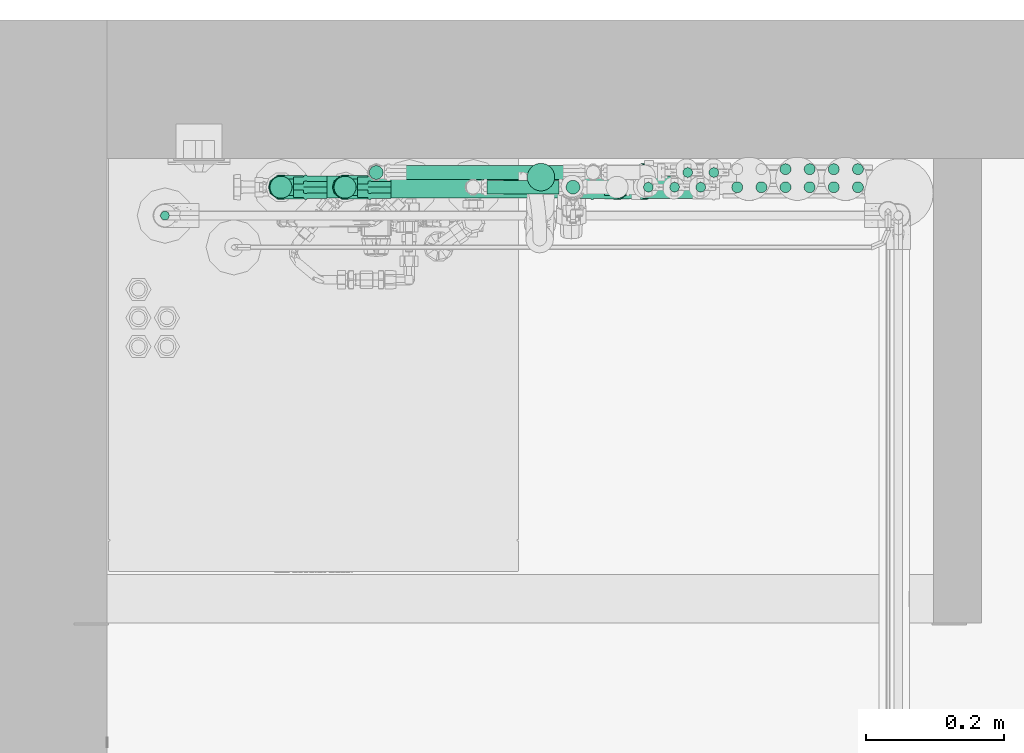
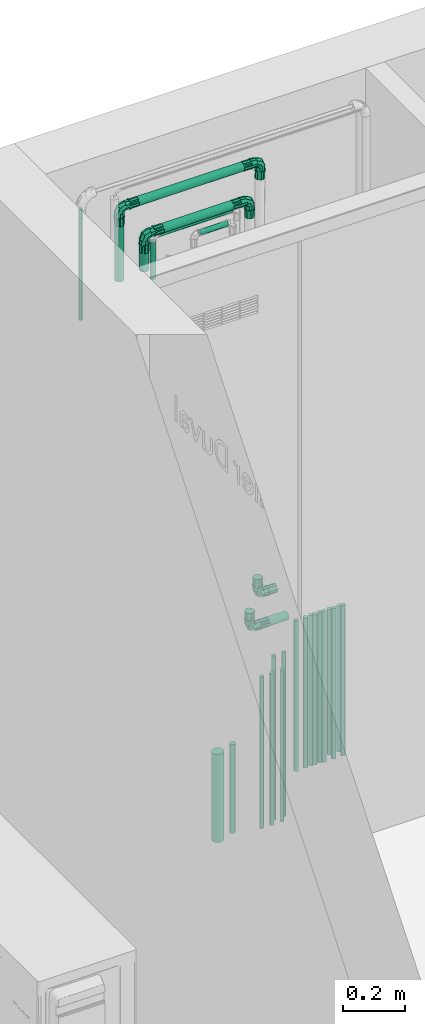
# One storey, part 19 of 32: 26 flow segments, 6 flow fittings.
"""IFC2X3 building model written with IfcOpenShell, lengths in metres."""

import ifcopenshell
import ifcopenshell.guid

model = None  # the IFC model being written
_history = None  # IfcOwnerHistory: only IFC2X3 demands one
_inside = {}  # id of a spatial element -> (the spatial element, [elements in it])
_under = {}  # id of a project, library or spatial element -> (it, [spatial elements below it])
_declared = {}  # id of a project -> (the project, [libraries it declares])
_typed = {}  # id of a type object -> (the type object, [elements of that type])
_made_of = {}  # id of a material, layer set ... -> (it, [elements and type objects made of it])


def new_model(schema):
    """Start an empty IFC model of exactly this schema.

    Asked for "IFC4X3", IfcOpenShell would pick the latest addendum, in which some entities
    have other attributes; the version numbers below select the first issue.
    IFC2X3 requires an IfcOwnerHistory on every rooted entity: one is made here for all.
    """
    global model, _history
    if schema == "IFC4X3":
        model = ifcopenshell.file(schema_version=(4, 3, 0, 0))
    else:
        model = ifcopenshell.file(schema=schema)
    _inside.clear()
    _under.clear()
    _declared.clear()
    _typed.clear()
    _made_of.clear()
    _history = None
    if model.schema == "IFC2X3":
        org = make("IfcOrganization", Name="unknown")
        user = make(
            "IfcPersonAndOrganization",
            ThePerson=make("IfcPerson", FamilyName="unknown"),
            TheOrganization=org,
        )
        app = make(
            "IfcApplication",
            ApplicationDeveloper=org,
            Version="unknown",
            ApplicationFullName="unknown",
            ApplicationIdentifier="unknown",
        )
        _history = make(
            "IfcOwnerHistory",
            OwningUser=user,
            OwningApplication=app,
            ChangeAction="ADDED",
            CreationDate=0,
        )
    return model


def make(cls, **values):
    """One entity of the class cls with the attributes given. An attribute that is None is left unset."""
    return model.create_entity(
        cls, **{name: value for name, value in values.items() if value is not None}
    )


def entity(cls, *values):
    """Any entity or typed value of the class cls, its attributes in the order of the schema. None: left unset."""
    e = model.create_entity(cls)
    for i, value in enumerate(values):
        if value is not None:
            e[i] = value
    return e


def rooted(cls, **values):
    """An entity with a GlobalId (a new one), such as an element, a storey or a relation."""
    return make(cls, GlobalId=ifcopenshell.guid.new(), OwnerHistory=_history, **values)


def si_unit(unit_type, name, prefix=None):
    """IfcSIUnit, for example si_unit("LENGTHUNIT", "METRE", prefix="MILLI")."""
    return make("IfcSIUnit", UnitType=unit_type, Prefix=prefix, Name=name)


def converted_unit(unit_type, name, factor, base, dimensions=None, offset=None):
    """IfcConversionBasedUnit, such as the inch: factor (a typed value) times the base unit."""
    return make(
        "IfcConversionBasedUnit"
        if offset is None
        else "IfcConversionBasedUnitWithOffset",
        ConversionOffset=offset,
        Dimensions=None
        if dimensions is None
        else entity("IfcDimensionalExponents", *dimensions),
        UnitType=unit_type,
        Name=name,
        ConversionFactor=make(
            "IfcMeasureWithUnit", ValueComponent=factor, UnitComponent=base
        ),
    )


def derived_unit(unit_type, elements):
    """IfcDerivedUnit: a product of units, each with its exponent."""
    return make(
        "IfcDerivedUnit",
        Elements=[
            make("IfcDerivedUnitElement", Unit=unit, Exponent=power)
            for unit, power in elements
        ],
        UnitType=unit_type,
    )


def assignment(units):
    """IfcUnitAssignment: the units of a project."""
    return None if units is None else make("IfcUnitAssignment", Units=units)


def point(xyz):
    """IfcCartesianPoint."""
    return None if xyz is None else make("IfcCartesianPoint", Coordinates=xyz)


def direction(xyz):
    """IfcDirection."""
    return None if xyz is None else make("IfcDirection", DirectionRatios=xyz)


def frame(location, z_axis=None, x_axis=None):
    """IfcAxis2Placement3D, a coordinate frame: its origin and axes. An axis left out is left unset."""
    return make(
        "IfcAxis2Placement3D",
        Location=point(location),
        Axis=direction(z_axis),
        RefDirection=direction(x_axis),
    )


def frame_2d(location, x_axis=None):
    """IfcAxis2Placement2D, a coordinate frame in the plane: its origin and x axis."""
    return make(
        "IfcAxis2Placement2D", Location=point(location), RefDirection=direction(x_axis)
    )


def origin():
    """The frame at (0, 0, 0) with its axes left unset."""
    return frame((0.0, 0.0, 0.0))


def origin_2d_with_axis():
    """The frame at (0, 0) in the plane with the x axis (1, 0) written out."""
    return frame_2d((0.0, 0.0), x_axis=(1.0, 0.0))


def place(relative_to, where):
    """IfcLocalPlacement: puts the frame where relative to a parent placement (None: the world)."""
    return make(
        "IfcLocalPlacement", PlacementRelTo=relative_to, RelativePlacement=where
    )


def context(
    kind, dimensions, precision=None, world=None, true_north=None, identifier=None
):
    """IfcGeometricRepresentationContext, for example the 3D "Model" context."""
    return make(
        "IfcGeometricRepresentationContext",
        ContextIdentifier=identifier,
        ContextType=kind,
        CoordinateSpaceDimension=dimensions,
        Precision=precision,
        WorldCoordinateSystem=world,
        TrueNorth=true_north,
    )


def subcontext(parent, identifier, kind, view, scale=None):
    """IfcGeometricRepresentationSubContext, for example "Body" below "Model"."""
    return make(
        "IfcGeometricRepresentationSubContext",
        ContextIdentifier=identifier,
        ContextType=kind,
        ParentContext=parent,
        TargetScale=scale,
        TargetView=view,
    )


def project(units=None, contexts=None):
    """IfcProject with its units and contexts."""
    return rooted(
        "IfcProject",
        Name="project",
        RepresentationContexts=contexts,
        UnitsInContext=assignment(units),
    )


def spatial(cls, under=None, at=None, **own):
    """A site, building, storey or space (cls), placed at a placement, below another one or the project."""
    s = rooted(cls, ObjectPlacement=at, **own)
    if under is not None:
        _under.setdefault(under.id(), (under, []))[1].append(s)
    return s


def profile(cls, at=None, kind="AREA", **sizes):
    """A parametric profile (cls). Its sizes go by their IFC names, for example OverallWidth=200.0."""
    return make(cls, ProfileType=kind, Position=at, **sizes)


def circle(**sizes):
    """IfcCircleProfileDef."""
    return profile("IfcCircleProfileDef", **sizes)


def extrude(swept, where, along, depth):
    """IfcExtrudedAreaSolid: the profile swept, set in the frame where, extruded along a direction by depth."""
    return make(
        "IfcExtrudedAreaSolid",
        SweptArea=swept,
        Position=where,
        ExtrudedDirection=direction(along),
        Depth=depth,
    )


def faces_of(points, faces, orient=None, outer=None):
    """IfcFace entities. A face is a list of loops; a loop is a list of indices into points, from 0.

    orient and outer hold one flag for each loop. By default every Orientation is true, the
    first loop of a face is its IfcFaceOuterBound and the others are IfcFaceBound.
    """
    made = []
    for i, loops in enumerate(faces):
        bounds = []
        for j, loop in enumerate(loops):
            is_outer = j == 0 if outer is None else outer[i][j]
            bounds.append(
                make(
                    "IfcFaceOuterBound" if is_outer else "IfcFaceBound",
                    Bound=make("IfcPolyLoop", Polygon=[points[k] for k in loop]),
                    Orientation=True if orient is None else orient[i][j],
                )
            )
        made.append(make("IfcFace", Bounds=bounds))
    return made


def faceted_brep(points, faces, orient=None, outer=None, voids=None):
    """IfcFacetedBrep: a solid bounded by flat faces; with voids (closed shells), ...WithVoids."""
    shared = [point(p) for p in points]
    hull = make("IfcClosedShell", CfsFaces=faces_of(shared, faces, orient, outer))
    if voids is None:
        return make("IfcFacetedBrep", Outer=hull)
    return make(
        "IfcFacetedBrepWithVoids",
        Outer=hull,
        Voids=[
            make(cls, CfsFaces=faces_of(shared, fs, o, b)) for cls, fs, o, b in voids
        ],
    )


def shape(context_of_items, identifier, shape_type, items):
    """IfcShapeRepresentation: the items that make up one representation, for example the "Body"."""
    return make(
        "IfcShapeRepresentation",
        ContextOfItems=context_of_items,
        RepresentationIdentifier=identifier,
        RepresentationType=shape_type,
        Items=items,
    )


def source(mapping_origin, context_of_items, identifier, shape_type, items):
    """IfcRepresentationMap: a shape defined once, which mapped items show again and again."""
    return make(
        "IfcRepresentationMap",
        MappingOrigin=mapping_origin,
        MappedRepresentation=shape(context_of_items, identifier, shape_type, items),
    )


def transform(
    local_origin,
    x_axis=None,
    y_axis=None,
    z_axis=None,
    scale=None,
    scale2=None,
    scale3=None,
    uniform=True,
):
    """IfcCartesianTransformationOperator3D, or its non-uniform kind. x_axis, y_axis, z_axis: its Axis1, 2, 3."""
    if uniform:
        return make(
            "IfcCartesianTransformationOperator3D",
            Axis1=direction(x_axis),
            Axis2=direction(y_axis),
            LocalOrigin=point(local_origin),
            Scale=scale,
            Axis3=direction(z_axis),
        )
    return make(
        "IfcCartesianTransformationOperator3DnonUniform",
        Axis1=direction(x_axis),
        Axis2=direction(y_axis),
        LocalOrigin=point(local_origin),
        Scale=scale,
        Axis3=direction(z_axis),
        Scale2=scale2,
        Scale3=scale3,
    )


def mapped(mapping_source, mapping_target):
    """IfcMappedItem: shows the shape of a source again, moved by a transform."""
    return make(
        "IfcMappedItem", MappingSource=mapping_source, MappingTarget=mapping_target
    )


def material(Name=None, Category=None):
    """IfcMaterial."""
    return make("IfcMaterial", Name=Name, Category=Category)


def material_list(materials):
    """IfcMaterialList."""
    return make("IfcMaterialList", Materials=materials)


def made_of(thing, what):
    """Note that an element or type object is made of a material, layer set ...; save() writes the relation."""
    if what is not None:
        _made_of.setdefault(what.id(), (what, []))[1].append(thing)
    return thing


def type_object(cls, material=None, **own):
    """A type object (cls), such as IfcWallType, which elements share."""
    return made_of(rooted(cls, **own), material)


def type_shapes(of_type, sources):
    """Give a type object the sources (RepresentationMaps) that its elements show as mapped items."""
    of_type.RepresentationMaps = sources


def element(
    cls,
    number,
    at=None,
    inside=None,
    cuts=None,
    type_object=None,
    material=None,
    context=None,
    identifier="Body",
    shape_type=None,
    held_by="IfcProductDefinitionShape",
    body=None,
    shapes=None,
    **own,
):
    """One element of the class cls, such as IfcWall. Its Tag is "e" and its number.

    at: its placement. inside: the storey or other place that contains it. cuts: it is an
    opening in that element (IfcRelVoidsElement). A single representation is given by context,
    identifier, shape_type and body (its items); several are given by shapes. held_by: the class
    of the entity that holds the representations. save() writes the other relations.
    """
    e = rooted(cls, Tag="e%d" % number, ObjectPlacement=at, **own)
    if body is not None:
        shapes = [shape(context, identifier, shape_type, body)]
    if shapes is not None:
        e.Representation = make(held_by, Representations=shapes)
    if inside is not None:
        _inside.setdefault(inside.id(), (inside, []))[1].append(e)
    if cuts is not None:
        rooted(
            "IfcRelVoidsElement", RelatingBuildingElement=cuts, RelatedOpeningElement=e
        )
    if type_object is not None:
        _typed.setdefault(type_object.id(), (type_object, []))[1].append(e)
    return made_of(e, material)


def aggregate(whole, parts):
    """IfcRelAggregates: a whole, such as a stair, and the parts it consists of."""
    return rooted("IfcRelAggregates", RelatingObject=whole, RelatedObjects=parts)


def save(model, path):
    """Write the relations noted so far, then the file.

    IfcRelAggregates (storeys below a building ...), IfcRelContainedInSpatialStructure (elements
    in a storey), IfcRelDefinesByType, IfcRelAssociatesMaterial and IfcRelDeclares: one each for
    every whole, place, type object, material and project.
    """
    for whole, parts in _under.values():
        aggregate(whole, parts)
    for where, things in _inside.values():
        rooted(
            "IfcRelContainedInSpatialStructure",
            RelatedElements=things,
            RelatingStructure=where,
        )
    for kind, things in _typed.values():
        rooted("IfcRelDefinesByType", RelatedObjects=things, RelatingType=kind)
    for what, things in _made_of.values():
        rooted("IfcRelAssociatesMaterial", RelatedObjects=things, RelatingMaterial=what)
    for by, libraries in _declared.values():
        rooted("IfcRelDeclares", RelatingContext=by, RelatedDefinitions=libraries)
    model.write(path)


model = new_model("IFC2X3")

# Units and contexts
model_context = context("Model", 3, precision=1e-05, world=origin(), true_north=direction((6.123031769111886e-17, 1.0)))
body_context = subcontext(model_context, "Body", "Model", "MODEL_VIEW")
ifc_project = project(units=[si_unit("LENGTHUNIT", "METRE"), si_unit("AREAUNIT", "SQUARE_METRE"), si_unit("VOLUMEUNIT", "CUBIC_METRE"), converted_unit("PLANEANGLEUNIT", "DEGREE", entity("IfcPlaneAngleMeasure", 0.017453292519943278), si_unit("PLANEANGLEUNIT", "RADIAN"), dimensions=[0, 0, 0, 0, 0, 0, 0]), si_unit("MASSUNIT", "GRAM", prefix="KILO"), derived_unit("MASSDENSITYUNIT", [(si_unit("MASSUNIT", "GRAM", prefix="KILO"), 1), (si_unit("LENGTHUNIT", "METRE"), -3)]), derived_unit("IONCONCENTRATIONUNIT", [(si_unit("MASSUNIT", "GRAM", prefix="KILO"), 1), (si_unit("LENGTHUNIT", "METRE"), -3)]), derived_unit("MOMENTOFINERTIAUNIT", [(si_unit("LENGTHUNIT", "METRE"), 4)]), si_unit("TIMEUNIT", "SECOND"), si_unit("FREQUENCYUNIT", "HERTZ"), si_unit("THERMODYNAMICTEMPERATUREUNIT", "DEGREE_CELSIUS"), derived_unit("THERMALTRANSMITTANCEUNIT", [(si_unit("MASSUNIT", "GRAM", prefix="KILO"), 1), (si_unit("THERMODYNAMICTEMPERATUREUNIT", "KELVIN"), -1), (si_unit("TIMEUNIT", "SECOND"), -3)]), derived_unit("THERMALCONDUCTANCEUNIT", [(si_unit("MASSUNIT", "GRAM", prefix="KILO"), 1), (si_unit("THERMODYNAMICTEMPERATUREUNIT", "KELVIN"), -1), (si_unit("TIMEUNIT", "SECOND"), -3), (si_unit("LENGTHUNIT", "METRE"), 1)]), derived_unit("VOLUMETRICFLOWRATEUNIT", [(si_unit("LENGTHUNIT", "METRE", prefix="DECI"), 3), (si_unit("TIMEUNIT", "SECOND"), -1)]), derived_unit("MASSFLOWRATEUNIT", [(si_unit("MASSUNIT", "GRAM", prefix="KILO"), 1), (si_unit("TIMEUNIT", "SECOND"), -1)]), derived_unit("ROTATIONALFREQUENCYUNIT", [(si_unit("TIMEUNIT", "SECOND"), -1)]), si_unit("ELECTRICCURRENTUNIT", "AMPERE"), si_unit("ELECTRICVOLTAGEUNIT", "VOLT"), si_unit("POWERUNIT", "WATT"), si_unit("FORCEUNIT", "NEWTON", prefix="KILO"), si_unit("ILLUMINANCEUNIT", "LUX"), si_unit("LUMINOUSFLUXUNIT", "LUMEN"), si_unit("LUMINOUSINTENSITYUNIT", "CANDELA"), si_unit("ENERGYUNIT", "JOULE"), derived_unit("USERDEFINED", [(si_unit("MASSUNIT", "GRAM", prefix="KILO"), -1), (si_unit("LENGTHUNIT", "METRE"), -2), (si_unit("TIMEUNIT", "SECOND"), 3), (si_unit("LUMINOUSFLUXUNIT", "LUMEN"), 1)]), derived_unit("USERDEFINED", [(si_unit("MASSUNIT", "GRAM", prefix="KILO"), 1), (si_unit("TIMEUNIT", "SECOND"), -3), (si_unit("LENGTHUNIT", "METRE"), 3), (si_unit("ELECTRICCURRENTUNIT", "AMPERE"), -2)]), derived_unit("SOUNDPOWERUNIT", [(si_unit("MASSUNIT", "GRAM", prefix="KILO"), 1), (si_unit("TIMEUNIT", "SECOND"), -3), (si_unit("LENGTHUNIT", "METRE"), 2)]), derived_unit("SOUNDPRESSUREUNIT", [(si_unit("MASSUNIT", "GRAM", prefix="KILO"), 1), (si_unit("LENGTHUNIT", "METRE"), -1), (si_unit("TIMEUNIT", "SECOND"), -2)]), derived_unit("LINEARVELOCITYUNIT", [(si_unit("LENGTHUNIT", "METRE"), 1), (si_unit("TIMEUNIT", "SECOND"), -1)]), si_unit("PRESSUREUNIT", "PASCAL"), derived_unit("USERDEFINED", [(si_unit("MASSUNIT", "GRAM", prefix="KILO"), 1), (si_unit("LENGTHUNIT", "METRE"), -2), (si_unit("TIMEUNIT", "SECOND"), -2)]), derived_unit("LINEARFORCEUNIT", [(si_unit("MASSUNIT", "GRAM", prefix="KILO"), 1), (si_unit("TIMEUNIT", "SECOND"), -2)]), derived_unit("PLANARFORCEUNIT", [(si_unit("MASSUNIT", "GRAM", prefix="KILO"), 1), (si_unit("LENGTHUNIT", "METRE"), -1), (si_unit("TIMEUNIT", "SECOND"), -2)]), derived_unit("SPECIFICHEATCAPACITYUNIT", [(si_unit("THERMODYNAMICTEMPERATUREUNIT", "KELVIN"), -1), (si_unit("LENGTHUNIT", "METRE"), 2), (si_unit("TIMEUNIT", "SECOND"), -2)]), derived_unit("HEATFLUXDENSITYUNIT", [(si_unit("MASSUNIT", "GRAM", prefix="KILO"), 1), (si_unit("TIMEUNIT", "SECOND"), -3)]), derived_unit("HEATINGVALUEUNIT", [(si_unit("LENGTHUNIT", "METRE"), 2), (si_unit("TIMEUNIT", "SECOND"), -2)]), derived_unit("VAPORPERMEABILITYUNIT", [(si_unit("LENGTHUNIT", "METRE"), -1), (si_unit("TIMEUNIT", "SECOND"), 1)]), derived_unit("DYNAMICVISCOSITYUNIT", [(si_unit("MASSUNIT", "GRAM", prefix="KILO"), 1), (si_unit("TIMEUNIT", "SECOND"), -1), (si_unit("LENGTHUNIT", "METRE"), -1)]), derived_unit("THERMALEXPANSIONCOEFFICIENTUNIT", [(si_unit("THERMODYNAMICTEMPERATUREUNIT", "KELVIN"), -1)]), derived_unit("MODULUSOFELASTICITYUNIT", [(si_unit("MASSUNIT", "GRAM", prefix="KILO"), 1), (si_unit("LENGTHUNIT", "METRE"), -1), (si_unit("TIMEUNIT", "SECOND"), -2)]), derived_unit("ISOTHERMALMOISTURECAPACITYUNIT", [(si_unit("MASSUNIT", "GRAM", prefix="KILO"), -1), (si_unit("LENGTHUNIT", "METRE"), 3)]), derived_unit("MOISTUREDIFFUSIVITYUNIT", [(si_unit("TIMEUNIT", "SECOND"), -1), (si_unit("LENGTHUNIT", "METRE"), 2)]), derived_unit("MASSPERLENGTHUNIT", [(si_unit("MASSUNIT", "GRAM", prefix="KILO"), 1), (si_unit("LENGTHUNIT", "METRE"), -1)]), derived_unit("THERMALRESISTANCEUNIT", [(si_unit("MASSUNIT", "GRAM", prefix="KILO"), -1), (si_unit("TIMEUNIT", "SECOND"), 3), (si_unit("THERMODYNAMICTEMPERATUREUNIT", "KELVIN"), 1)]), derived_unit("ACCELERATIONUNIT", [(si_unit("LENGTHUNIT", "METRE"), 1), (si_unit("TIMEUNIT", "SECOND"), -2)]), derived_unit("ANGULARVELOCITYUNIT", [(si_unit("TIMEUNIT", "SECOND"), -1), (si_unit("PLANEANGLEUNIT", "RADIAN"), 1)]), derived_unit("LINEARSTIFFNESSUNIT", [(si_unit("MASSUNIT", "GRAM", prefix="KILO"), 1), (si_unit("TIMEUNIT", "SECOND"), -2)]), derived_unit("WARPINGCONSTANTUNIT", [(si_unit("LENGTHUNIT", "METRE"), 6)]), derived_unit("LINEARMOMENTUNIT", [(si_unit("MASSUNIT", "GRAM", prefix="KILO"), 1), (si_unit("LENGTHUNIT", "METRE"), 1), (si_unit("TIMEUNIT", "SECOND"), -2)]), derived_unit("TORQUEUNIT", [(si_unit("MASSUNIT", "GRAM", prefix="KILO"), 1), (si_unit("LENGTHUNIT", "METRE"), 2), (si_unit("TIMEUNIT", "SECOND"), -2)])], contexts=[model_context])

# Site, building, storey
site_placement = place(None, origin())
site = spatial("IfcSite", under=ifc_project, at=site_placement, Name="Default", CompositionType="ELEMENT")
building_placement = place(site_placement, origin())
building = spatial("IfcBuilding", under=site, at=building_placement, CompositionType="ELEMENT")
storey_placement = place(building_placement, origin())
storey = spatial("IfcBuildingStorey", under=building, at=storey_placement, Name="Niveau 0", CompositionType="ELEMENT", Elevation=-1.949160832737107e-14)

# Flow segments
pipe_segment_type_1 = type_object("IfcPipeSegmentType", Name="Canalisation:PVC - NF", PredefinedType="NOTDEFINED")
flow_segment_1_placement = place(storey_placement, origin())
element("IfcFlowSegment", 1, at=flow_segment_1_placement, inside=storey, type_object=pipe_segment_type_1, Name="Canalisation:PVC - NF", ObjectType="Canalisation:PVC - NF", context=body_context, shape_type="SweptSolid", body=[
    extrude(circle(Radius=0.02, at=origin_2d_with_axis()), frame((-14.079284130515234, 2.8413545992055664, -0.3381002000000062)), (0.0, 0.0, 1.0), 0.35000000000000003),
])
pipe_segment_type_2 = type_object("IfcPipeSegmentType", Name="Canalisation:Cuivre Frigo", PredefinedType="NOTDEFINED")
flow_segment_2_placement = place(storey_placement, origin())
element("IfcFlowSegment", 2, at=flow_segment_2_placement, inside=storey, type_object=pipe_segment_type_2, Name="Canalisation:Cuivre Frigo", ObjectType="Canalisation:Cuivre Frigo", context=body_context, shape_type="SweptSolid", body=[
    extrude(circle(Radius=0.00635, at=origin_2d_with_axis()), frame((-14.625301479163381, 2.7855264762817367, 1.9449999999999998), z_axis=(0.0, 0.0, 1.0), x_axis=(-1.0, 0.0, 0.0)), (0.0, 0.0, 1.0), 0.4401379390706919),
])
pipe_segment_type_3 = type_object("IfcPipeSegmentType", Name="Canalisation:COMAP MULTISKIN - SKINPRESS PPSU", PredefinedType="NOTDEFINED")
flow_segment_3_placement = place(storey_placement, origin())
element("IfcFlowSegment", 3, at=flow_segment_3_placement, inside=storey, type_object=pipe_segment_type_3, Name="Canalisation:COMAP MULTISKIN - SKINPRESS PPSU", ObjectType="Canalisation:COMAP MULTISKIN - SKINPRESS PPSU", context=body_context, shape_type="SweptSolid", body=[
    extrude(circle(Radius=0.01, at=origin_2d_with_axis()), frame((-14.157760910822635, 2.826796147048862, 2.1), z_axis=(1.0, 0.0, 0.0), x_axis=(0.0, -1.0, 0.0)), (0.0, 0.0, 1.0), 0.10499999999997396),
])
flow_segment_4_placement = place(storey_placement, origin())
element("IfcFlowSegment", 4, at=flow_segment_4_placement, inside=storey, type_object=pipe_segment_type_3, Name="Canalisation:COMAP MULTISKIN - SKINPRESS PPSU", ObjectType="Canalisation:COMAP MULTISKIN - SKINPRESS PPSU", context=body_context, shape_type="SweptSolid", body=[
    extrude(circle(Radius=0.01, at=origin_2d_with_axis()), frame((-14.318550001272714, 2.8480800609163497, 1.9639101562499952), z_axis=(0.0, 0.0, 1.0), x_axis=(-1.0, 0.0, 0.0)), (0.0, 0.0, 1.0), 0.1475000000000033),
])
flow_segment_5_placement = place(storey_placement, origin())
element("IfcFlowSegment", 5, at=flow_segment_5_placement, inside=storey, type_object=pipe_segment_type_3, Name="Canalisation:COMAP MULTISKIN - SKINPRESS PPSU", ObjectType="Canalisation:COMAP MULTISKIN - SKINPRESS PPSU", context=body_context, shape_type="SweptSolid", body=[
    extrude(circle(Radius=0.01, at=origin_2d_with_axis()), frame((-14.298550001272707, 2.8480800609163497, 2.131410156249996), z_axis=(1.0, 0.0, 0.0), x_axis=(0.0, -1.0, 0.0)), (0.0, 0.0, 1.0), 0.2750000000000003),
])
flow_segment_6_placement = place(storey_placement, origin())
element("IfcFlowSegment", 6, at=flow_segment_6_placement, inside=storey, type_object=pipe_segment_type_3, Name="Canalisation:COMAP MULTISKIN - SKINPRESS PPSU", ObjectType="Canalisation:COMAP MULTISKIN - SKINPRESS PPSU", context=body_context, shape_type="SweptSolid", body=[
    extrude(circle(Radius=0.016, at=origin_2d_with_axis()), frame((-14.363760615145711, 2.8267264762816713, 2.0269999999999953), z_axis=(0.0, 0.0, 1.0), x_axis=(-1.0, 0.0, 0.0)), (0.0, 0.0, 1.0), 0.10154358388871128),
])
flow_segment_7_placement = place(storey_placement, origin())
element("IfcFlowSegment", 7, at=flow_segment_7_placement, inside=storey, type_object=pipe_segment_type_3, Name="Canalisation:COMAP MULTISKIN - SKINPRESS PPSU", ObjectType="Canalisation:COMAP MULTISKIN - SKINPRESS PPSU", context=body_context, shape_type="SweptSolid", body=[
    extrude(circle(Radius=0.016, at=origin_2d_with_axis()), frame((-14.325760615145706, 2.8267264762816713, 2.1665435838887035), z_axis=(1.0, 0.0, 0.0), x_axis=(0.0, -1.0, 0.0)), (0.0, 0.0, 1.0), 0.31899999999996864),
])
flow_segment_8_placement = place(storey_placement, origin())
element("IfcFlowSegment", 8, at=flow_segment_8_placement, inside=storey, type_object=pipe_segment_type_3, Name="Canalisation:COMAP MULTISKIN - SKINPRESS PPSU", ObjectType="Canalisation:COMAP MULTISKIN - SKINPRESS PPSU", context=body_context, shape_type="SweptSolid", body=[
    extrude(circle(Radius=0.016, at=origin_2d_with_axis()), frame((-14.456760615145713, 2.8267264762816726, 2.020749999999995), z_axis=(0.0, 0.0, 1.0), x_axis=(-1.0, 0.0, 0.0)), (0.0, 0.0, 1.0), 0.24700000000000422),
])
flow_segment_9_placement = place(storey_placement, origin())
element("IfcFlowSegment", 9, at=flow_segment_9_placement, inside=storey, type_object=pipe_segment_type_3, Name="Canalisation:COMAP MULTISKIN - SKINPRESS PPSU", ObjectType="Canalisation:COMAP MULTISKIN - SKINPRESS PPSU", context=body_context, shape_type="SweptSolid", body=[
    extrude(circle(Radius=0.016, at=origin_2d_with_axis()), frame((-14.418760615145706, 2.8267264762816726, 2.3057499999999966), z_axis=(1.0, 0.0, 0.0), x_axis=(0.0, -1.0, 0.0)), (0.0, 0.0, 1.0), 0.4514999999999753),
])
flow_segment_10_placement = place(storey_placement, origin())
element("IfcFlowSegment", 10, at=flow_segment_10_placement, inside=storey, type_object=pipe_segment_type_3, Name="Canalisation:COMAP MULTISKIN - SKINPRESS PPSU", ObjectType="Canalisation:COMAP MULTISKIN - SKINPRESS PPSU", context=body_context, shape_type="SweptSolid", body=[
    extrude(circle(Radius=0.007, at=origin_2d_with_axis()), frame((-13.885290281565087, 2.8267264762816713, -0.33810020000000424)), (0.0, 0.0, 1.0), 0.6016002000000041),
])
flow_segment_11_placement = place(storey_placement, origin())
element("IfcFlowSegment", 11, at=flow_segment_11_placement, inside=storey, type_object=pipe_segment_type_3, Name="Canalisation:COMAP MULTISKIN - SKINPRESS PPSU", ObjectType="Canalisation:COMAP MULTISKIN - SKINPRESS PPSU", context=body_context, shape_type="SweptSolid", body=[
    extrude(circle(Radius=0.007, at=origin_2d_with_axis()), frame((-13.923290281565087, 2.8267264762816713, -0.3381002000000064)), (0.0, 0.0, 1.0), 0.6016002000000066),
])
flow_segment_12_placement = place(storey_placement, origin())
element("IfcFlowSegment", 12, at=flow_segment_12_placement, inside=storey, type_object=pipe_segment_type_3, Name="Canalisation:COMAP MULTISKIN - SKINPRESS PPSU", ObjectType="Canalisation:COMAP MULTISKIN - SKINPRESS PPSU", context=body_context, shape_type="SweptSolid", body=[
    extrude(circle(Radius=0.007, at=origin_2d_with_axis()), frame((-13.847290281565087, 2.8267264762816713, -0.3365000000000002)), (0.0, 0.0, 1.0), 0.6000000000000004),
])
flow_segment_13_placement = place(storey_placement, origin())
element("IfcFlowSegment", 13, at=flow_segment_13_placement, inside=storey, type_object=pipe_segment_type_3, Name="Canalisation:COMAP MULTISKIN - SKINPRESS PPSU", ObjectType="Canalisation:COMAP MULTISKIN - SKINPRESS PPSU", context=body_context, shape_type="SweptSolid", body=[
    extrude(circle(Radius=0.007, at=origin_2d_with_axis()), frame((-13.866205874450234, 2.848101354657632, -0.33810020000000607)), (0.0, 0.0, 1.0), 0.6516002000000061),
])
flow_segment_14_placement = place(storey_placement, origin())
element("IfcFlowSegment", 14, at=flow_segment_14_placement, inside=storey, type_object=pipe_segment_type_3, Name="Canalisation:COMAP MULTISKIN - SKINPRESS PPSU", ObjectType="Canalisation:COMAP MULTISKIN - SKINPRESS PPSU", context=body_context, shape_type="SweptSolid", body=[
    extrude(circle(Radius=0.007, at=frame_2d((-2.1657342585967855e-15, 0.0), x_axis=(1.0, 0.0))), frame((-13.828205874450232, 2.848101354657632, -0.3364999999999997)), (0.0, 0.0, 1.0), 0.65),
])
flow_segment_15_placement = place(storey_placement, origin())
element("IfcFlowSegment", 15, at=flow_segment_15_placement, inside=storey, type_object=pipe_segment_type_3, Name="Canalisation:COMAP MULTISKIN - SKINPRESS PPSU", ObjectType="Canalisation:COMAP MULTISKIN - SKINPRESS PPSU", context=body_context, shape_type="SweptSolid", body=[
    extrude(circle(Radius=0.01, at=origin_2d_with_axis()), frame((-14.032760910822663, 2.826796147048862, -0.3165000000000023)), (0.0, 0.0, 1.0), 0.35300000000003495),
])
flow_segment_16_placement = place(storey_placement, origin())
element("IfcFlowSegment", 16, at=flow_segment_16_placement, inside=storey, type_object=pipe_segment_type_3, Name="Canalisation:COMAP MULTISKIN - SKINPRESS PPSU", ObjectType="Canalisation:COMAP MULTISKIN - SKINPRESS PPSU", context=body_context, shape_type="SweptSolid", body=[
    extrude(circle(Radius=0.016, at=frame_2d((0.0, 1.353583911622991e-16), x_axis=(1.0, 0.0))), frame((-13.930760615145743, 2.8266619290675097, 0.47075431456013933), z_axis=(1.0, 0.0, 0.0), x_axis=(0.0, 1.0, 0.0)), (0.0, 0.0, 1.0), 0.10050000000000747),
])

# Flow fittings
ifc_material_1 = material(Name="PPSU")
ifc_material_2 = material(Name="Bague blanche VisuControl")
ifc_material_3 = material(Name="Inox")
ifc_material_list_1 = material_list([ifc_material_1, ifc_material_2, ifc_material_3])
pipe_fitting_type = type_object("IfcPipeFittingType", Name="COMAP - SKINPRESS ppsu - Coude_45_90_9041W_9090W:Coude_45_90_9041W_9090W", PredefinedType="NOTDEFINED", material=ifc_material_list_1)
shared_shape = source(origin(), body_context, "Body", "Brep", [
    faceted_brep([(-0.0184999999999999, 0.03400000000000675, 0.0), (-0.01602146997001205, 0.03400000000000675, -0.009249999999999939), (-0.004788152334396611, 0.03400000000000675, -0.017869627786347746), (0.004788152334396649, 0.03400000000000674, -0.017869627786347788), (0.016021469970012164, 0.03400000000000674, -0.009250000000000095), (0.018500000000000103, 0.03400000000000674, 0.0), (0.016021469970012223, 0.03400000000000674, 0.009249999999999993), (0.004788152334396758, 0.03400000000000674, 0.017869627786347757), (-0.0047881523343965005, 0.03400000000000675, 0.017869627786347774), (-0.01602146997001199, 0.03400000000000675, 0.009250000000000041), (0.004788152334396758, 0.038000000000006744, 0.017869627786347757), (0.016021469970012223, 0.038000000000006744, 0.009249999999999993), (0.018500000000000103, 0.038000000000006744, 0.0), (0.016021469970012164, 0.038000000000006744, -0.009250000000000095), (0.004788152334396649, 0.038000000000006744, -0.017869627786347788), (-0.004788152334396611, 0.038000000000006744, -0.017869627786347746), (-0.01602146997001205, 0.038000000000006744, -0.009249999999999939), (-0.0184999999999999, 0.038000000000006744, 0.0), (-0.01602146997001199, 0.038000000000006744, 0.009250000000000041), (-0.0047881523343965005, 0.038000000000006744, 0.017869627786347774)], [[[0, 1, 2, 3, 4, 5, 6, 7, 8, 9]], [[10, 11, 12, 13, 14, 15, 16, 17, 18, 19]], [[1, 0, 17, 16]], [[2, 1, 16, 15]], [[15, 14, 3, 2]], [[4, 3, 14, 13]], [[5, 4, 13, 12]], [[6, 5, 12, 11]], [[7, 6, 11, 10]], [[10, 19, 8, 7]], [[9, 8, 19, 18]], [[0, 9, 18, 17]]]),
    faceted_brep([(0.01472243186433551, 0.03300000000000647, -0.008500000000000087), (0.017000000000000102, 0.03300000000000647, 0.0), (0.014722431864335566, 0.03300000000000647, 0.008499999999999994), (0.004399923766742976, 0.03300000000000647, 0.016420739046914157), (-0.004399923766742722, 0.03300000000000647, 0.01642073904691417), (-0.014722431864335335, 0.03300000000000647, 0.008500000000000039), (-0.0169999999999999, 0.03300000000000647, 0.0), (-0.014722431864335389, 0.03300000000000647, -0.008499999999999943), (-0.004399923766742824, 0.03300000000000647, -0.016420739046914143), (0.004399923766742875, 0.03300000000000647, -0.016420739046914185), (0.004399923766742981, 0.06700000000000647, 0.016420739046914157), (0.01472243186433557, 0.06700000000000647, 0.008499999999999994), (0.01700000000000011, 0.06700000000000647, 0.0), (0.014722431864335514, 0.06700000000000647, -0.008500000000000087), (0.004399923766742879, 0.06700000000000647, -0.016420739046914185), (-0.0043999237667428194, 0.06700000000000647, -0.016420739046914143), (-0.014722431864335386, 0.06700000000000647, -0.008499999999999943), (-0.016999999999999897, 0.06700000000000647, 0.0), (-0.01472243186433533, 0.06700000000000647, 0.008500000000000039), (-0.004399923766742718, 0.06700000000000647, 0.01642073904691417)], [[[0, 1, 2, 3, 4, 5, 6, 7, 8, 9]], [[10, 11, 12, 13, 14, 15, 16, 17, 18, 19]], [[7, 6, 17, 16]], [[8, 7, 16, 15]], [[15, 14, 9, 8]], [[0, 9, 14, 13]], [[1, 0, 13, 12]], [[2, 1, 12, 11]], [[3, 2, 11, 10]], [[10, 19, 4, 3]], [[5, 4, 19, 18]], [[6, 5, 18, 17]]]),
    faceted_brep([(-0.03399999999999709, -0.018499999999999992, 0.0), (-0.03399999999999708, -0.016021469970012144, -0.009249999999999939), (-0.03399999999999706, -0.004788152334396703, -0.017869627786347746), (-0.033999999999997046, 0.004788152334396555, -0.017869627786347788), (-0.033999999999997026, 0.01602146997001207, -0.009250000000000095), (-0.03399999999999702, 0.01850000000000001, 0.0), (-0.033999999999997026, 0.01602146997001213, 0.009249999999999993), (-0.033999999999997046, 0.004788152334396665, 0.017869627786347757), (-0.03399999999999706, -0.004788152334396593, 0.017869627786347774), (-0.03399999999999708, -0.016021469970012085, 0.009250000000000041), (-0.03799999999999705, 0.004788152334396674, 0.017869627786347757), (-0.03799999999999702, 0.016021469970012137, 0.009249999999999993), (-0.03799999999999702, 0.018500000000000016, 0.0), (-0.03799999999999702, 0.016021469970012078, -0.009250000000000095), (-0.03799999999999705, 0.004788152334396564, -0.017869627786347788), (-0.037999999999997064, -0.004788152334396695, -0.017869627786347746), (-0.03799999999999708, -0.016021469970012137, -0.009249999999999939), (-0.03799999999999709, -0.018499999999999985, 0.0), (-0.03799999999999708, -0.016021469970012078, 0.009250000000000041), (-0.037999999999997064, -0.004788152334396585, 0.017869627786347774)], [[[0, 1, 2, 3, 4, 5, 6, 7, 8, 9]], [[10, 11, 12, 13, 14, 15, 16, 17, 18, 19]], [[1, 0, 17, 16]], [[2, 1, 16, 15]], [[15, 14, 3, 2]], [[4, 3, 14, 13]], [[5, 4, 13, 12]], [[6, 5, 12, 11]], [[7, 6, 11, 10]], [[10, 19, 8, 7]], [[9, 8, 19, 18]], [[0, 9, 18, 17]]]),
    faceted_brep([(-0.03299999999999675, 0.014722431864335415, -0.008500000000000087), (-0.03299999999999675, 0.017000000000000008, 0.0), (-0.03299999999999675, 0.01472243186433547, 0.008499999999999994), (-0.03299999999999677, 0.004399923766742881, 0.016420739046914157), (-0.03299999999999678, -0.004399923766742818, 0.01642073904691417), (-0.0329999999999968, -0.01472243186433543, 0.008500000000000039), (-0.0329999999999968, -0.016999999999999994, 0.0), (-0.0329999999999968, -0.014722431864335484, -0.008499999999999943), (-0.03299999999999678, -0.004399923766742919, -0.016420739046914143), (-0.03299999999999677, 0.0043999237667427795, -0.016420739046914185), (-0.06699999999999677, 0.004399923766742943, 0.016420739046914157), (-0.06699999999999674, 0.014722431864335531, 0.008499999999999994), (-0.06699999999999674, 0.01700000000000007, 0.0), (-0.06699999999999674, 0.014722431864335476, -0.008500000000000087), (-0.06699999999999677, 0.004399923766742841, -0.016420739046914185), (-0.06699999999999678, -0.004399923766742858, -0.016420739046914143), (-0.06699999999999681, -0.014722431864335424, -0.008499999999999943), (-0.06699999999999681, -0.016999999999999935, 0.0), (-0.06699999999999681, -0.014722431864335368, 0.008500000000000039), (-0.06699999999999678, -0.004399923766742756, 0.01642073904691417)], [[[0, 1, 2, 3, 4, 5, 6, 7, 8, 9]], [[10, 11, 12, 13, 14, 15, 16, 17, 18, 19]], [[7, 6, 17, 16]], [[8, 7, 16, 15]], [[15, 14, 9, 8]], [[0, 9, 14, 13]], [[1, 0, 13, 12]], [[2, 1, 12, 11]], [[3, 2, 11, 10]], [[10, 19, 4, 3]], [[5, 4, 19, 18]], [[6, 5, 18, 17]]]),
    faceted_brep([(-0.03299999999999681, -0.014722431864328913, -0.008500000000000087), (-0.03299999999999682, -0.016999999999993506, 0.0), (-0.03299999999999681, -0.014722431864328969, 0.008499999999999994), (-0.032999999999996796, -0.00439992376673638, 0.016420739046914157), (-0.03299999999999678, 0.0043999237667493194, 0.01642073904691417), (-0.03299999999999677, 0.01472243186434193, 0.008500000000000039), (-0.03299999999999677, 0.017000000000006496, 0.0), (-0.03299999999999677, 0.014722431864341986, -0.008499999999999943), (-0.03299999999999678, 0.004399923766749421, -0.016420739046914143), (-0.032999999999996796, -0.004399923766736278, -0.016420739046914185), (-0.0179999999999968, -0.004399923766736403, 0.016420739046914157), (-0.017999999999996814, -0.014722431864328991, 0.008499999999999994), (-0.017999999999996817, -0.01699999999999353, 0.0), (-0.017999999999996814, -0.014722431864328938, -0.008500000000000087), (-0.0179999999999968, -0.004399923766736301, -0.016420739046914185), (-0.017999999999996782, 0.0043999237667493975, -0.016420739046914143), (-0.01799999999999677, 0.014722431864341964, -0.008499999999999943), (-0.017999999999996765, 0.017000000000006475, 0.0), (-0.01799999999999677, 0.014722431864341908, 0.008500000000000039), (-0.017999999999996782, 0.004399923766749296, 0.01642073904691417)], [[[0, 1, 2, 3, 4, 5, 6, 7, 8, 9]], [[10, 11, 12, 13, 14, 15, 16, 17, 18, 19]], [[7, 6, 17, 16]], [[8, 7, 16, 15]], [[15, 14, 9, 8]], [[0, 9, 14, 13]], [[1, 0, 13, 12]], [[2, 1, 12, 11]], [[3, 2, 11, 10]], [[10, 19, 4, 3]], [[5, 4, 19, 18]], [[6, 5, 18, 17]]]),
    faceted_brep([(-0.00849999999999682, 0.033000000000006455, 0.014722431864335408), (0.0, 0.03300000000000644, 0.017), (0.008500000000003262, 0.03300000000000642, 0.014722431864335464), (0.016420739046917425, 0.03300000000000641, 0.004399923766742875), (0.01642073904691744, 0.03300000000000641, -0.004399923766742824), (0.008500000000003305, 0.03300000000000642, -0.014722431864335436), (0.0, 0.03300000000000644, -0.017), (-0.008499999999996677, 0.033000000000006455, -0.014722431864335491), (-0.016420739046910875, 0.03300000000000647, -0.004399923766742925), (-0.016420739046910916, 0.03300000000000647, 0.0043999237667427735), (0.016420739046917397, 0.01800000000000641, 0.004399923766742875), (0.008500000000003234, 0.018000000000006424, 0.014722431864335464), (0.0, 0.018000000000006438, 0.017), (-0.008499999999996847, 0.018000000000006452, 0.014722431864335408), (-0.016420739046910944, 0.01800000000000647, 0.0043999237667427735), (-0.016420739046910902, 0.01800000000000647, -0.004399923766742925), (-0.008499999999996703, 0.018000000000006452, -0.014722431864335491), (0.0, 0.018000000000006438, -0.017), (0.00850000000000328, 0.018000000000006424, -0.014722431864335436), (0.01642073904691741, 0.01800000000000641, -0.004399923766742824)], [[[0, 1, 2, 3, 4, 5, 6, 7, 8, 9]], [[10, 11, 12, 13, 14, 15, 16, 17, 18, 19]], [[7, 6, 17, 16]], [[8, 7, 16, 15]], [[15, 14, 9, 8]], [[0, 9, 14, 13]], [[1, 0, 13, 12]], [[2, 1, 12, 11]], [[3, 2, 11, 10]], [[10, 19, 4, 3]], [[5, 4, 19, 18]], [[6, 5, 18, 17]]]),
    faceted_brep([(0.0067487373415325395, -0.0067487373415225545, 0.0), (0.003227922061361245, -0.0032279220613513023, -0.012020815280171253), (0.012020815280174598, 0.018000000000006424, -0.012020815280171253), (0.017000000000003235, 0.018000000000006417, 0.0), (-0.005272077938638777, 0.00527207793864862, -0.017), (0.0, 0.018000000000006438, -0.017), (-0.013772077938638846, 0.013772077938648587, -0.012020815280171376), (-0.012020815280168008, 0.018000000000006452, -0.012020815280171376), (-0.017292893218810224, 0.01729289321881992, 0.0), (-0.016999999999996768, 0.01800000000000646, 0.0), (-0.013772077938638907, 0.013772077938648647, 0.012020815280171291), (-0.012020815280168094, 0.018000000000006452, 0.012020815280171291), (-0.005272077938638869, 0.00527207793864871, 0.017), (0.0, 0.018000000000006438, 0.017), (0.0032279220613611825, -0.00322792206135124, 0.012020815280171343), (0.01202081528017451, 0.018000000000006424, 0.012020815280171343), (-0.01799999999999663, -0.01699999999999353, 0.0), (-0.01799999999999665, -0.012020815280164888, -0.012020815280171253), (-0.017999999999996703, 0.0, -0.017), (-0.01799999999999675, 0.012020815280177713, -0.012020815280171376), (-0.017999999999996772, 0.017000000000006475, 0.0), (-0.01799999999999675, 0.0120208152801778, 0.012020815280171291), (-0.017999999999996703, 0.0, 0.017), (-0.01799999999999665, -0.012020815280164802, 0.012020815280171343)], [[[0, 1, 2, 3]], [[1, 4, 5, 2]], [[4, 6, 7, 5]], [[6, 8, 9, 7]], [[8, 10, 11, 9]], [[10, 12, 13, 11]], [[12, 14, 15, 13]], [[14, 0, 3, 15]], [[16, 17, 1, 0]], [[17, 18, 4, 1]], [[18, 19, 6, 4]], [[19, 20, 8, 6]], [[20, 21, 10, 8]], [[21, 22, 12, 10]], [[22, 23, 14, 12]], [[23, 16, 0, 14]], [[3, 2, 5, 7, 9, 11, 13, 15]], [[23, 22, 21, 20, 19, 18, 17, 16]]]),
])
type_shapes(pipe_fitting_type, [shared_shape])
flow_fitting_placement = place(storey_placement, frame((-14.363760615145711, 2.8267264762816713, 2.1665435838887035), z_axis=(0.0, 1.0, 0.0), x_axis=(0.0, 0.0, 1.0)))
element("IfcFlowFitting", 17, at=flow_fitting_placement, inside=storey, type_object=pipe_fitting_type, material=ifc_material_list_1, Name="COMAP - SKINPRESS ppsu - Coude_45_90_9041W_9090W:Coude_45_90_9041W_9090W", ObjectType="COMAP - SKINPRESS ppsu - Coude_45_90_9041W_9090W:Coude_45_90_9041W_9090W", context=body_context, shape_type="MappedRepresentation", body=[
    mapped(shared_shape, transform((0.0, 0.0, 0.0), scale=1.0)),
])
ifc_material_list_2 = material_list([ifc_material_2, ifc_material_3, ifc_material_1])
for number, where, z_axis, x_axis in (
    (18, (-14.456760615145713, 2.8267264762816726, 2.3057499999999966), (0.0, 1.0, 0.0), (0.0, 0.0, 1.0)),
    (19, (-13.968760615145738, 2.8267264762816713, 2.1665435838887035), (0.0, 1.0, -3.806322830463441e-05), (1.0, 0.0, 0.0)),
    (20, (-13.968760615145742, 2.8266619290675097, 0.4707543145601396), (0.0, 1.0, -3.806322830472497e-05), (-1.0, 0.0, 0.0)),
    (21, (-13.929260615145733, 2.8267264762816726, 2.305749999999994), (0.0, 0.99995401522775, 0.009589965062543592), (1.0, 0.0, 0.0)),
    (22, (-13.929260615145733, 2.843266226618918, 0.5811358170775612), (0.0, 0.99995401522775, 0.009589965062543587), (-1.0, 0.0, 0.0)),
):
    element("IfcFlowFitting", number, at=place(storey_placement, frame(where, z_axis=z_axis, x_axis=x_axis)), inside=storey, type_object=pipe_fitting_type, material=ifc_material_list_2, Name="COMAP - SKINPRESS ppsu - Coude_45_90_9041W_9090W:Coude_45_90_9041W_9090W", ObjectType="COMAP - SKINPRESS ppsu - Coude_45_90_9041W_9090W:Coude_45_90_9041W_9090W", context=body_context, shape_type="MappedRepresentation", body=[
        mapped(shared_shape, transform((0.0, 0.0, 0.0), scale=1.0)),
    ])

# Flow segments
pipe_segment_type_4 = type_object("IfcPipeSegmentType", Name="Canalisation:PER Bleu", PredefinedType="NOTDEFINED")
flow_segment_17_placement = place(storey_placement, origin())
element("IfcFlowSegment", 23, at=flow_segment_17_placement, inside=storey, type_object=pipe_segment_type_4, Name="Canalisation:PER Bleu", ObjectType="Canalisation:PER Bleu", context=body_context, shape_type="SweptSolid", body=[
    extrude(circle(Radius=0.008, at=origin_2d_with_axis()), frame((-13.794260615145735, 2.8266656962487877, -0.1555842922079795)), (0.0, 0.0, 1.0), 0.5963358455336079),
])
flow_segment_18_placement = place(storey_placement, origin())
element("IfcFlowSegment", 24, at=flow_segment_18_placement, inside=storey, type_object=pipe_segment_type_4, Name="Canalisation:PER Bleu", ObjectType="Canalisation:PER Bleu", context=body_context, shape_type="SweptSolid", body=[
    extrude(circle(Radius=0.008, at=origin_2d_with_axis()), frame((-13.759217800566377, 2.8266656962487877, -0.15424844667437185)), (0.0, 0.0, 1.0), 0.5950000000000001),
])
flow_segment_19_placement = place(storey_placement, origin())
element("IfcFlowSegment", 25, at=flow_segment_19_placement, inside=storey, type_object=pipe_segment_type_4, Name="Canalisation:PER Bleu", ObjectType="Canalisation:PER Bleu", context=body_context, shape_type="SweptSolid", body=[
    extrude(circle(Radius=0.008, at=origin_2d_with_axis()), frame((-13.724175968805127, 2.8266656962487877, -0.154248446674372)), (0.0, 0.0, 1.0), 0.5950000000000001),
])
flow_segment_20_placement = place(storey_placement, origin())
element("IfcFlowSegment", 26, at=flow_segment_20_placement, inside=storey, type_object=pipe_segment_type_4, Name="Canalisation:PER Bleu", ObjectType="Canalisation:PER Bleu", context=body_context, shape_type="SweptSolid", body=[
    extrude(circle(Radius=0.008, at=origin_2d_with_axis()), frame((-13.689120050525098, 2.8266656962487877, -0.15558429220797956)), (0.0, 0.0, 1.0), 0.5963358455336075),
])
flow_segment_21_placement = place(storey_placement, origin())
element("IfcFlowSegment", 27, at=flow_segment_21_placement, inside=storey, type_object=pipe_segment_type_4, Name="Canalisation:PER Bleu", ObjectType="Canalisation:PER Bleu", context=body_context, shape_type="SweptSolid", body=[
    extrude(circle(Radius=0.008, at=origin_2d_with_axis()), frame((-13.654072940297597, 2.8266656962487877, -0.1555842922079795)), (0.0, 0.0, 1.0), 0.5963358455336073),
])
flow_segment_22_placement = place(storey_placement, origin())
element("IfcFlowSegment", 28, at=flow_segment_22_placement, inside=storey, type_object=pipe_segment_type_4, Name="Canalisation:PER Bleu", ObjectType="Canalisation:PER Bleu", context=body_context, shape_type="SweptSolid", body=[
    extrude(circle(Radius=0.008, at=origin_2d_with_axis()), frame((-13.619018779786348, 2.8266656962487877, -0.1555842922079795)), (0.0, 0.0, 1.0), 0.5963358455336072),
])
pipe_segment_type_5 = type_object("IfcPipeSegmentType", Name="Canalisation:PER Rouge", PredefinedType="NOTDEFINED")
flow_segment_23_placement = place(storey_placement, origin())
element("IfcFlowSegment", 29, at=flow_segment_23_placement, inside=storey, type_object=pipe_segment_type_5, Name="Canalisation:PER Rouge", ObjectType="Canalisation:PER Rouge", context=body_context, shape_type="SweptSolid", body=[
    extrude(circle(Radius=0.008, at=origin_2d_with_axis()), frame((-13.619018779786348, 2.852865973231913, -0.1555842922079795)), (0.0, 0.0, 1.0), 0.5770341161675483),
])
flow_segment_24_placement = place(storey_placement, origin())
element("IfcFlowSegment", 30, at=flow_segment_24_placement, inside=storey, type_object=pipe_segment_type_5, Name="Canalisation:PER Rouge", ObjectType="Canalisation:PER Rouge", context=body_context, shape_type="SweptSolid", body=[
    extrude(circle(Radius=0.008, at=origin_2d_with_axis()), frame((-13.654072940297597, 2.852865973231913, -0.15558429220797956)), (0.0, 0.0, 1.0), 0.5770341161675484),
])
flow_segment_25_placement = place(storey_placement, origin())
element("IfcFlowSegment", 31, at=flow_segment_25_placement, inside=storey, type_object=pipe_segment_type_5, Name="Canalisation:PER Rouge", ObjectType="Canalisation:PER Rouge", context=body_context, shape_type="SweptSolid", body=[
    extrude(circle(Radius=0.008, at=origin_2d_with_axis()), frame((-13.689120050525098, 2.852865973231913, -0.1741564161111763)), (0.0, 0.0, 1.0), 0.5956062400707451),
])
flow_segment_26_placement = place(storey_placement, origin())
element("IfcFlowSegment", 32, at=flow_segment_26_placement, inside=storey, type_object=pipe_segment_type_5, Name="Canalisation:PER Rouge", ObjectType="Canalisation:PER Rouge", context=body_context, shape_type="SweptSolid", body=[
    extrude(circle(Radius=0.008, at=origin_2d_with_axis()), frame((-13.724175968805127, 2.852865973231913, -0.1741564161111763)), (0.0, 0.0, 1.0), 0.5956062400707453),
])

save(model, "model.ifc")
